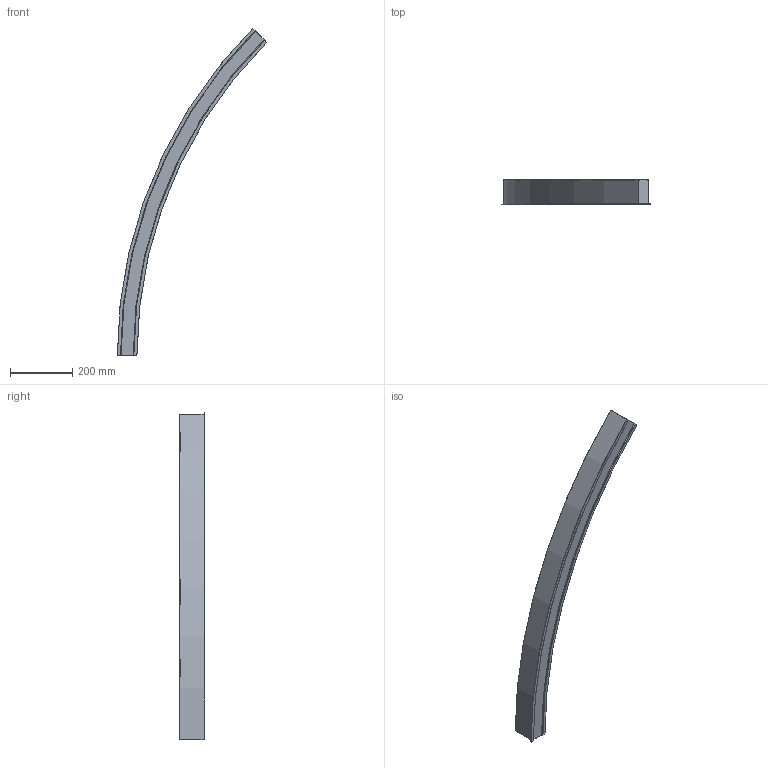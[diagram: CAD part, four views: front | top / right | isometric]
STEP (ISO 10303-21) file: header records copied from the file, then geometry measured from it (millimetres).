
FILE_DESCRIPTION (( 'STEP AP203' ), '1' );
FILE_NAME ('mLight_Swerve 47 Recessed_R1450 mm 45 deg.STEP', '2020-04-01T10:07:55', ( '' ), ( '' ), 'SwSTEP 2.0', 'SolidWorks 2017', '' );
FILE_SCHEMA (( 'CONFIG_CONTROL_DESIGN' ));
Length unit declared in the file: millimetre
Products named in the file (1): mLight_Swerve 47 Recessed_R1450 mm 45 deg
Bounding box: 478.47 x 80.63 x 1047.58 mm (x, y, z)
Volume: 4135075.6 mm3; surface area: 358032.9 mm2
Topology: 1 solids, 1 shells, 54 faces, 156 edges, 104 vertices
Faces by surface type: torus 28, plane 12, cylinder 8, cone 6
Entity records: 1925 total; most frequent: DIRECTION 374, CARTESIAN_POINT 315, ORIENTED_EDGE 312, AXIS2_PLACEMENT_3D 163, EDGE_CURVE 156, CIRCLE 108, VERTEX_POINT 104, ADVANCED_FACE 54
